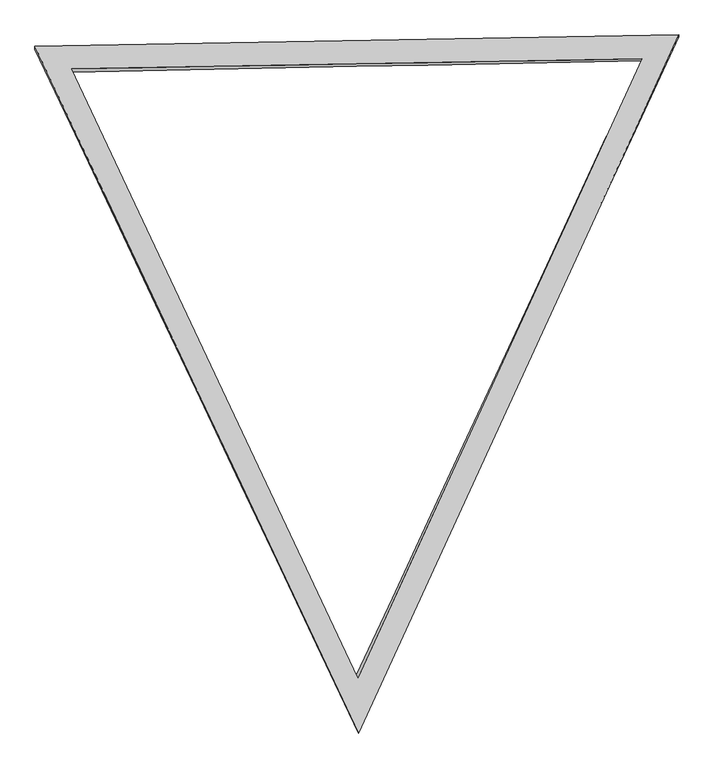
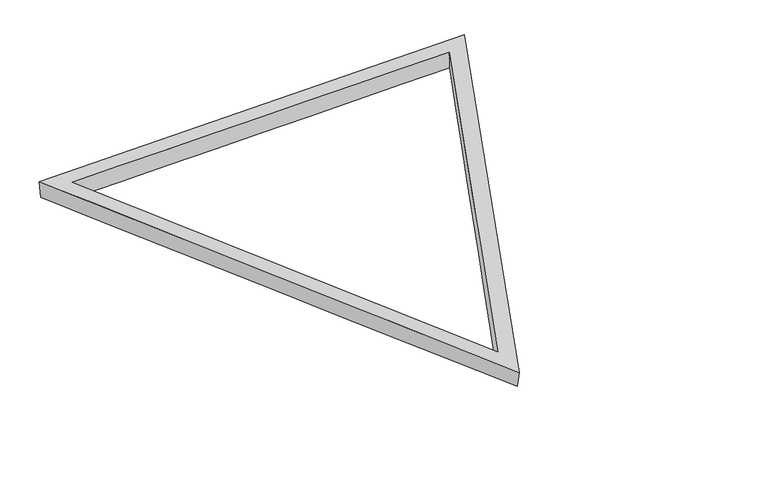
"""IFC4 building model written with IfcOpenShell, lengths in millimetres: plate geometry."""

import ifcopenshell
import ifcopenshell.guid

model = None  # the IFC model being written
_history = None  # IfcOwnerHistory: only IFC2X3 demands one
_inside = {}  # id of a spatial element -> (the spatial element, [elements in it])
_under = {}  # id of a project, library or spatial element -> (it, [spatial elements below it])
_declared = {}  # id of a project -> (the project, [libraries it declares])
_typed = {}  # id of a type object -> (the type object, [elements of that type])
_made_of = {}  # id of a material, layer set ... -> (it, [elements and type objects made of it])


def new_model(schema):
    """Start an empty IFC model of exactly this schema.

    Asked for "IFC4X3", IfcOpenShell would pick the latest addendum, in which some entities
    have other attributes; the version numbers below select the first issue.
    IFC2X3 requires an IfcOwnerHistory on every rooted entity: one is made here for all.
    """
    global model, _history
    if schema == "IFC4X3":
        model = ifcopenshell.file(schema_version=(4, 3, 0, 0))
    else:
        model = ifcopenshell.file(schema=schema)
    _inside.clear()
    _under.clear()
    _declared.clear()
    _typed.clear()
    _made_of.clear()
    _history = None
    if model.schema == "IFC2X3":
        org = make("IfcOrganization", Name="unknown")
        user = make(
            "IfcPersonAndOrganization",
            ThePerson=make("IfcPerson", FamilyName="unknown"),
            TheOrganization=org,
        )
        app = make(
            "IfcApplication",
            ApplicationDeveloper=org,
            Version="unknown",
            ApplicationFullName="unknown",
            ApplicationIdentifier="unknown",
        )
        _history = make(
            "IfcOwnerHistory",
            OwningUser=user,
            OwningApplication=app,
            ChangeAction="ADDED",
            CreationDate=0,
        )
    return model


def make(cls, **values):
    """One entity of the class cls with the attributes given. An attribute that is None is left unset."""
    return model.create_entity(
        cls, **{name: value for name, value in values.items() if value is not None}
    )


def rooted(cls, **values):
    """An entity with a GlobalId (a new one), such as an element, a storey or a relation."""
    return make(cls, GlobalId=ifcopenshell.guid.new(), OwnerHistory=_history, **values)


def si_unit(unit_type, name, prefix=None):
    """IfcSIUnit, for example si_unit("LENGTHUNIT", "METRE", prefix="MILLI")."""
    return make("IfcSIUnit", UnitType=unit_type, Prefix=prefix, Name=name)


def assignment(units):
    """IfcUnitAssignment: the units of a project."""
    return None if units is None else make("IfcUnitAssignment", Units=units)


def point(xyz):
    """IfcCartesianPoint."""
    return None if xyz is None else make("IfcCartesianPoint", Coordinates=xyz)


def direction(xyz):
    """IfcDirection."""
    return None if xyz is None else make("IfcDirection", DirectionRatios=xyz)


def frame(location, z_axis=None, x_axis=None):
    """IfcAxis2Placement3D, a coordinate frame: its origin and axes. An axis left out is left unset."""
    return make(
        "IfcAxis2Placement3D",
        Location=point(location),
        Axis=direction(z_axis),
        RefDirection=direction(x_axis),
    )


def origin():
    """The frame at (0, 0, 0) with its axes left unset."""
    return frame((0.0, 0.0, 0.0))


def place(relative_to, where):
    """IfcLocalPlacement: puts the frame where relative to a parent placement (None: the world)."""
    return make(
        "IfcLocalPlacement", PlacementRelTo=relative_to, RelativePlacement=where
    )


def context(
    kind, dimensions, precision=None, world=None, true_north=None, identifier=None
):
    """IfcGeometricRepresentationContext, for example the 3D "Model" context."""
    return make(
        "IfcGeometricRepresentationContext",
        ContextIdentifier=identifier,
        ContextType=kind,
        CoordinateSpaceDimension=dimensions,
        Precision=precision,
        WorldCoordinateSystem=world,
        TrueNorth=true_north,
    )


def project(units=None, contexts=None):
    """IfcProject with its units and contexts."""
    return rooted(
        "IfcProject",
        Name="project",
        RepresentationContexts=contexts,
        UnitsInContext=assignment(units),
    )


def spatial(cls, under=None, at=None, **own):
    """A site, building, storey or space (cls), placed at a placement, below another one or the project."""
    s = rooted(cls, ObjectPlacement=at, **own)
    if under is not None:
        _under.setdefault(under.id(), (under, []))[1].append(s)
    return s


def shape(context_of_items, identifier, shape_type, items):
    """IfcShapeRepresentation: the items that make up one representation, for example the "Body"."""
    return make(
        "IfcShapeRepresentation",
        ContextOfItems=context_of_items,
        RepresentationIdentifier=identifier,
        RepresentationType=shape_type,
        Items=items,
    )


def source(mapping_origin, context_of_items, identifier, shape_type, items):
    """IfcRepresentationMap: a shape defined once, which mapped items show again and again."""
    return make(
        "IfcRepresentationMap",
        MappingOrigin=mapping_origin,
        MappedRepresentation=shape(context_of_items, identifier, shape_type, items),
    )


def transform(
    local_origin,
    x_axis=None,
    y_axis=None,
    z_axis=None,
    scale=None,
    scale2=None,
    scale3=None,
    uniform=True,
):
    """IfcCartesianTransformationOperator3D, or its non-uniform kind. x_axis, y_axis, z_axis: its Axis1, 2, 3."""
    if uniform:
        return make(
            "IfcCartesianTransformationOperator3D",
            Axis1=direction(x_axis),
            Axis2=direction(y_axis),
            LocalOrigin=point(local_origin),
            Scale=scale,
            Axis3=direction(z_axis),
        )
    return make(
        "IfcCartesianTransformationOperator3DnonUniform",
        Axis1=direction(x_axis),
        Axis2=direction(y_axis),
        LocalOrigin=point(local_origin),
        Scale=scale,
        Axis3=direction(z_axis),
        Scale2=scale2,
        Scale3=scale3,
    )


def mapped(mapping_source, mapping_target):
    """IfcMappedItem: shows the shape of a source again, moved by a transform."""
    return make(
        "IfcMappedItem", MappingSource=mapping_source, MappingTarget=mapping_target
    )


def made_of(thing, what):
    """Note that an element or type object is made of a material, layer set ...; save() writes the relation."""
    if what is not None:
        _made_of.setdefault(what.id(), (what, []))[1].append(thing)
    return thing


def element(
    cls,
    number,
    at=None,
    inside=None,
    cuts=None,
    type_object=None,
    material=None,
    context=None,
    identifier="Body",
    shape_type=None,
    held_by="IfcProductDefinitionShape",
    body=None,
    shapes=None,
    **own,
):
    """One element of the class cls, such as IfcWall. Its Tag is "e" and its number.

    at: its placement. inside: the storey or other place that contains it. cuts: it is an
    opening in that element (IfcRelVoidsElement). A single representation is given by context,
    identifier, shape_type and body (its items); several are given by shapes. held_by: the class
    of the entity that holds the representations. save() writes the other relations.
    """
    e = rooted(cls, Tag="e%d" % number, ObjectPlacement=at, **own)
    if body is not None:
        shapes = [shape(context, identifier, shape_type, body)]
    if shapes is not None:
        e.Representation = make(held_by, Representations=shapes)
    if inside is not None:
        _inside.setdefault(inside.id(), (inside, []))[1].append(e)
    if cuts is not None:
        rooted(
            "IfcRelVoidsElement", RelatingBuildingElement=cuts, RelatedOpeningElement=e
        )
    if type_object is not None:
        _typed.setdefault(type_object.id(), (type_object, []))[1].append(e)
    return made_of(e, material)


def aggregate(whole, parts):
    """IfcRelAggregates: a whole, such as a stair, and the parts it consists of."""
    return rooted("IfcRelAggregates", RelatingObject=whole, RelatedObjects=parts)


def save(model, path):
    """Write the relations noted so far, then the file.

    IfcRelAggregates (storeys below a building ...), IfcRelContainedInSpatialStructure (elements
    in a storey), IfcRelDefinesByType, IfcRelAssociatesMaterial and IfcRelDeclares: one each for
    every whole, place, type object, material and project.
    """
    for whole, parts in _under.values():
        aggregate(whole, parts)
    for where, things in _inside.values():
        rooted(
            "IfcRelContainedInSpatialStructure",
            RelatedElements=things,
            RelatingStructure=where,
        )
    for kind, things in _typed.values():
        rooted("IfcRelDefinesByType", RelatedObjects=things, RelatingType=kind)
    for what, things in _made_of.values():
        rooted("IfcRelAssociatesMaterial", RelatedObjects=things, RelatingMaterial=what)
    for by, libraries in _declared.values():
        rooted("IfcRelDeclares", RelatingContext=by, RelatedDefinitions=libraries)
    model.write(path)


def plane_surface(at):
    """IfcPlane: the flat surface through the origin of the frame at, square to its z axis."""
    return make("IfcPlane", Position=at)


def spline_surface(u_degree, v_degree, points, u_multiplicities, v_multiplicities, u_knots, v_knots, weights=None):
    """IfcBSplineSurfaceWithKnots; with weights, IfcRationalBSplineSurfaceWithKnots. points: one row for each step in u."""
    own = dict(
        UDegree=u_degree,
        VDegree=v_degree,
        ControlPointsList=[[point(p) for p in row] for row in points],
        SurfaceForm="UNSPECIFIED",
        UClosed=False,
        VClosed=False,
        SelfIntersect=False,
        UMultiplicities=u_multiplicities,
        VMultiplicities=v_multiplicities,
        UKnots=u_knots,
        VKnots=v_knots,
        KnotSpec="UNSPECIFIED",
    )
    if weights is None:
        return make("IfcBSplineSurfaceWithKnots", **own)
    return make("IfcRationalBSplineSurfaceWithKnots", WeightsData=weights, **own)


def advanced_brep(points, edges, surfaces, faces):
    """IfcAdvancedBrep: a solid bounded by faces that lie on surfaces and meet in shared edges.

    An edge is (start, end): straight between two places in points (the first is 0);
    or (start, end, curve); or (start, end, curve, False) where it runs against its curve.
    A face is (place in surfaces, loops), or (place, loops, False) where it looks against
    its surface's normal. A loop lists edges by number (the first is 1), with a minus sign
    where the edge is run from its end to its start. The first loop is the outer one.
    """
    corners = [point(p) for p in points]
    vertices = [make("IfcVertexPoint", VertexGeometry=c) for c in corners]
    made = []
    for start, end, *more in edges:
        made.append(
            make(
                "IfcEdgeCurve",
                EdgeStart=vertices[start],
                EdgeEnd=vertices[end],
                EdgeGeometry=more[0] if more else make("IfcPolyline", Points=[corners[start], corners[end]]),
                SameSense=more[1] if len(more) > 1 else True,
            )
        )
    hull = []
    for where, loops, *sense in faces:
        bounds = []
        for j, loop in enumerate(loops):
            ring = [make("IfcOrientedEdge", EdgeElement=made[abs(k) - 1], Orientation=k > 0) for k in loop]
            bounds.append(
                make(
                    "IfcFaceOuterBound" if j == 0 else "IfcFaceBound",
                    Bound=make("IfcEdgeLoop", EdgeList=ring),
                    Orientation=True,
                )
            )
        hull.append(make("IfcAdvancedFace", Bounds=bounds, FaceSurface=surfaces[where], SameSense=sense[0] if sense else True))
    return make("IfcAdvancedBrep", Outer=make("IfcClosedShell", CfsFaces=hull))


def plate_bd606b41(model_context):
    return source(origin(), model_context, "Body", "AdvancedBrep", [
        advanced_brep(
        [(3617.703727, 6815.1731216, 0.0), (3616.8435012, 6842.286587, 201.3274994), (6105.8793976, 1559.5287676, 201.0178319), (6094.2995785, 1583.9729757, 0.0), (8572.5212744, 6928.9588174, 202.5033771), (8570.8954299, 6912.7802427, 0.0), (6096.0, 1105.5007196, 0.0), (8892.3697499, 7122.3546346, 0.0), (8892.0658076, 7137.7785578, 202.6135489), (6108.210922, 1077.8335704, 200.9369609), (3299.6302501, 7012.1446459, 0.0), (3299.0821199, 7039.960178, 201.2864519)],
        [
            (0, 1),
            (1, 2),
            (2, 3),
            (3, 0),
            (2, 4),
            (4, 5),
            (5, 3),
            (0, 5),
            (4, 1),
            (6, 7),
            (7, 8),
            (8, 9),
            (9, 6),
            (7, 10),
            (10, 11),
            (11, 8),
            (9, 11),
            (10, 6),
        ],
        [
            spline_surface(1, 1, [[(3617.703727, 6815.1731216, 0.0), (6094.2995785, 1583.9729757, 0.0)], [(3616.8435012, 6842.286587, 201.3274994), (6105.8793976, 1559.5287676, 201.0178319)]], [2, 2], [2, 2], [0.0, 1.0], [0.0, 1.0]),
            spline_surface(1, 1, [[(6094.2995785, 1583.9729757, 0.0), (8570.8954299, 6912.7802427, 0.0)], [(6105.8793976, 1559.5287676, 201.0178319), (8572.5212744, 6928.9588174, 202.5033771)]], [2, 2], [2, 2], [0.0, 1.0], [0.0, 1.0]),
            spline_surface(1, 1, [[(8570.8954299, 6912.7802427, 0.0), (3617.703727, 6815.1731216, 0.0)], [(8572.5212744, 6928.9588174, 202.5033771), (3616.8435012, 6842.286587, 201.3274994)]], [2, 2], [2, 2], [0.0, 1.0], [0.0, 1.0]),
            spline_surface(1, 1, [[(6096.0, 1105.5007196, 0.0), (6108.210922, 1077.8335704, 200.9369609)], [(8892.3697499, 7122.3546346, 0.0), (8892.0658076, 7137.7785578, 202.6135489)]], [2, 2], [2, 2], [0.0, 1.0], [0.0, 1.0]),
            spline_surface(1, 1, [[(8892.3697499, 7122.3546346, 0.0), (8892.0658076, 7137.7785578, 202.6135489)], [(3299.6302501, 7012.1446459, 0.0), (3299.0821199, 7039.960178, 201.2864519)]], [2, 2], [2, 2], [0.0, 1.0], [0.0, 1.0]),
            spline_surface(1, 1, [[(3299.6302501, 7012.1446459, 0.0), (3299.0821199, 7039.960178, 201.2864519)], [(6096.0, 1105.5007196, 0.0), (6108.210922, 1077.8335704, 200.9369609)]], [2, 2], [2, 2], [0.0, 1.0], [0.0, 1.0]),
            plane_surface(frame((6099.7862831, 5085.1907687, 201.6123206), z_axis=(-0.0002343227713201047, -0.00016902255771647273, 0.9999999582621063), x_axis=(0.4262220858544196, -0.9046185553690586, -5.3027403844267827e-05))),
            plane_surface(frame((6096.0, 5080.0, 0.0), z_axis=(0.0, 0.0, -1.0), x_axis=(-0.42789709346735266, 0.9038274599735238, 0.0))),
        ],
        [
            (0, [[1, 2, 3, 4]]),
            (1, [[-3, 5, 6, 7]]),
            (2, [[-1, 8, -6, 9]]),
            (3, [[10, 11, 12, 13]]),
            (4, [[-11, 14, 15, 16]]),
            (5, [[-13, 17, -15, 18]]),
            (6, [[-12, -16, -17], [-2, -9, -5]]),
            (7, [[-10, -18, -14], [-4, -7, -8]]),
        ],
    ),
    ])


if __name__ == "__main__":
    model = new_model("IFC4")
    model_context = context("Model", 3, world=origin())
    ifc_project = project(units=[si_unit("LENGTHUNIT", "METRE", prefix="MILLI")], contexts=[model_context])
    site = spatial("IfcSite", under=ifc_project)
    building = spatial("IfcBuilding", under=site)
    placement = place(None, origin())
    plate_shape = plate_bd606b41(model_context)
    element("IfcPlate", 1, ObjectType="tn_cpanel_patbase_triangle_flat_seamless_frame_02_cylinder : tn_triangle_seamless_frame_t8\"xh8\"", at=placement, inside=building, context=model_context, shape_type="MappedRepresentation", body=[
        mapped(plate_shape, transform((0.0, 0.0, 0.0), x_axis=(1.0, 0.0, 0.0), y_axis=(0.0, 1.0, 0.0), z_axis=(0.0, 0.0, 1.0))),
    ])
    save(model, "model.ifc")
